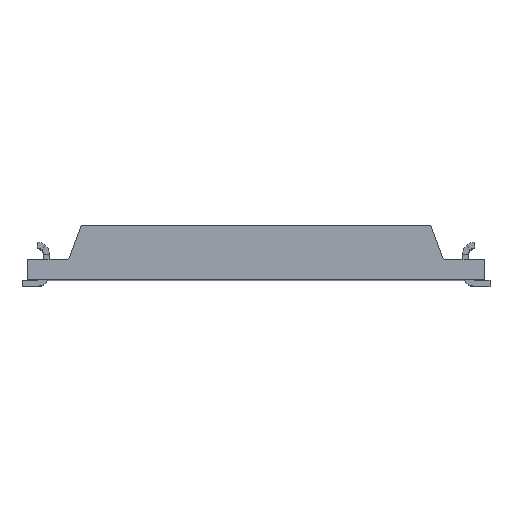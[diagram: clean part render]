
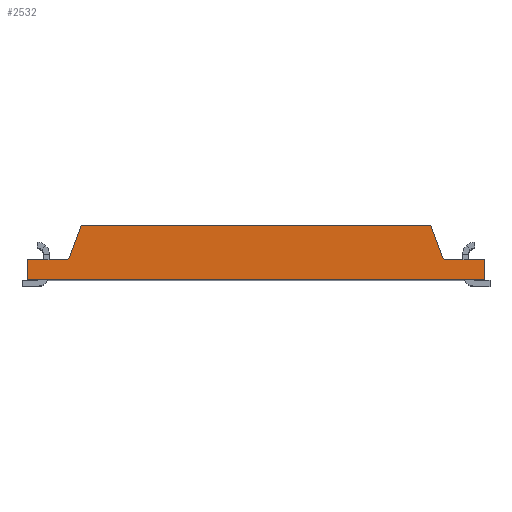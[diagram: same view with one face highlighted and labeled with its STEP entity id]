
A CAD part, top view. The second image highlights one B-rep face of the part: STEP entity #2532.
In plain terms, the highlighted planar face has unit normal (0, 0, 1).
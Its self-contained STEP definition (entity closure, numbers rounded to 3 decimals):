
#56 = EDGE_CURVE ( 'NONE', #842, #4621, #9113, .T. ) ;
#758 = EDGE_CURVE ( 'NONE', #12847, #5925, #18960, .T. ) ;
#842 = VERTEX_POINT ( 'NONE', #2823 ) ;
#993 = AXIS2_PLACEMENT_3D ( 'NONE', #15455, #5886, #17069 ) ;
#1022 = CIRCLE ( 'NONE', #15987, 0.254 ) ;
#1276 = ORIENTED_EDGE ( 'NONE', *, *, #11809, .F. ) ;
#1488 = ORIENTED_EDGE ( 'NONE', *, *, #17001, .F. ) ;
#1881 = ORIENTED_EDGE ( 'NONE', *, *, #56, .F. ) ;
#2202 = VECTOR ( 'NONE', #11343, 1000. ) ;
#2311 = CARTESIAN_POINT ( 'NONE',  ( -8.008, 1.092, 16.256 ) ) ;
#2532 = ADVANCED_FACE ( 'NONE', ( #6695 ), #12127, .T. ) ;
#2823 = CARTESIAN_POINT ( 'NONE',  ( -9.55, 0.838, 16.256 ) ) ;
#3002 = CARTESIAN_POINT ( 'NONE',  ( 9.418, 0.838, 16.256 ) ) ;
#3118 = CARTESIAN_POINT ( 'NONE',  ( -7.303, 2.286, 16.256 ) ) ;
#3531 = LINE ( 'NONE', #3002, #7239 ) ;
#3714 = EDGE_CURVE ( 'NONE', #8270, #4621, #1022, .T. ) ;
#3881 = DIRECTION ( 'NONE',  ( 1., 0., 0. ) ) ;
#4187 = LINE ( 'NONE', #9736, #2202 ) ;
#4341 = CARTESIAN_POINT ( 'NONE',  ( 9.55, 0., 16.256 ) ) ;
#4483 = ORIENTED_EDGE ( 'NONE', *, *, #8454, .F. ) ;
#4621 = VERTEX_POINT ( 'NONE', #6803 ) ;
#5500 = CARTESIAN_POINT ( 'NONE',  ( -7.769, 1.005, 16.256 ) ) ;
#5774 = VERTEX_POINT ( 'NONE', #10855 ) ;
#5886 = DIRECTION ( 'NONE',  ( 0., 0., 1. ) ) ;
#5925 = VERTEX_POINT ( 'NONE', #17162 ) ;
#6453 = ORIENTED_EDGE ( 'NONE', *, *, #14395, .F. ) ;
#6695 = FACE_OUTER_BOUND ( 'NONE', #11507, .T. ) ;
#6803 = CARTESIAN_POINT ( 'NONE',  ( -8.008, 0.838, 16.256 ) ) ;
#7225 = CARTESIAN_POINT ( 'NONE',  ( -9.55, 12.657, 16.256 ) ) ;
#7239 = VECTOR ( 'NONE', #17377, 1000. ) ;
#7291 = LINE ( 'NONE', #18323, #11057 ) ;
#7664 = CARTESIAN_POINT ( 'NONE',  ( 7.303, 2.286, 16.256 ) ) ;
#8100 = VERTEX_POINT ( 'NONE', #3118 ) ;
#8270 = VERTEX_POINT ( 'NONE', #5500 ) ;
#8338 = ORIENTED_EDGE ( 'NONE', *, *, #9151, .F. ) ;
#8454 = EDGE_CURVE ( 'NONE', #8270, #8100, #11066, .T. ) ;
#8663 = DIRECTION ( 'NONE',  ( -0.342, 0.94, 0. ) ) ;
#8873 = DIRECTION ( 'NONE',  ( 0., 0., -1. ) ) ;
#9113 = LINE ( 'NONE', #17241, #12858 ) ;
#9151 = EDGE_CURVE ( 'NONE', #12847, #17885, #3531, .T. ) ;
#9218 = DIRECTION ( 'NONE',  ( 1., 0., 0. ) ) ;
#9372 = EDGE_CURVE ( 'NONE', #5774, #18156, #14507, .T. ) ;
#9736 = CARTESIAN_POINT ( 'NONE',  ( -2.078, 2.286, 16.256 ) ) ;
#10021 = ORIENTED_EDGE ( 'NONE', *, *, #16938, .T. ) ;
#10305 = VECTOR ( 'NONE', #12913, 1000. ) ;
#10747 = DIRECTION ( 'NONE',  ( 0.342, 0.94, 0. ) ) ;
#10855 = CARTESIAN_POINT ( 'NONE',  ( -9.55, 0., 16.256 ) ) ;
#11057 = VECTOR ( 'NONE', #8663, 1000. ) ;
#11066 = LINE ( 'NONE', #12323, #19135 ) ;
#11120 = VERTEX_POINT ( 'NONE', #7664 ) ;
#11321 = CARTESIAN_POINT ( 'NONE',  ( 9.55, 12.657, 16.256 ) ) ;
#11343 = DIRECTION ( 'NONE',  ( 1., 0., 0. ) ) ;
#11486 = CARTESIAN_POINT ( 'NONE',  ( 9.55, 0.838, 16.256 ) ) ;
#11507 = EDGE_LOOP ( 'NONE', ( #17034, #1276, #8338, #14669, #10021, #6453, #4483, #17119, #1881, #1488 ) ) ;
#11809 = EDGE_CURVE ( 'NONE', #17885, #18156, #15072, .T. ) ;
#12127 = PLANE ( 'NONE',  #993 ) ;
#12323 = CARTESIAN_POINT ( 'NONE',  ( -7.488, 1.778, 16.256 ) ) ;
#12847 = VERTEX_POINT ( 'NONE', #19324 ) ;
#12858 = VECTOR ( 'NONE', #9218, 1000. ) ;
#12913 = DIRECTION ( 'NONE',  ( 0., -1., 0. ) ) ;
#13426 = DIRECTION ( 'NONE',  ( 0., 0., -1. ) ) ;
#13732 = CARTESIAN_POINT ( 'NONE',  ( -5.1, 0., 16.256 ) ) ;
#14015 = VECTOR ( 'NONE', #16935, 1000. ) ;
#14395 = EDGE_CURVE ( 'NONE', #8100, #11120, #4187, .T. ) ;
#14507 = LINE ( 'NONE', #13732, #14015 ) ;
#14669 = ORIENTED_EDGE ( 'NONE', *, *, #758, .T. ) ;
#15072 = LINE ( 'NONE', #11321, #10305 ) ;
#15455 = CARTESIAN_POINT ( 'NONE',  ( -5.1, 0., 16.256 ) ) ;
#15987 = AXIS2_PLACEMENT_3D ( 'NONE', #2311, #13426, #3881 ) ;
#16935 = DIRECTION ( 'NONE',  ( 1., 0., 0. ) ) ;
#16938 = EDGE_CURVE ( 'NONE', #5925, #11120, #7291, .T. ) ;
#17001 = EDGE_CURVE ( 'NONE', #5774, #842, #19128, .T. ) ;
#17034 = ORIENTED_EDGE ( 'NONE', *, *, #9372, .T. ) ;
#17069 = DIRECTION ( 'NONE',  ( 1., 0., 0. ) ) ;
#17119 = ORIENTED_EDGE ( 'NONE', *, *, #3714, .T. ) ;
#17162 = CARTESIAN_POINT ( 'NONE',  ( 7.769, 1.005, 16.256 ) ) ;
#17241 = CARTESIAN_POINT ( 'NONE',  ( -8.465, 0.838, 16.256 ) ) ;
#17377 = DIRECTION ( 'NONE',  ( 1., 0., 0. ) ) ;
#17854 = AXIS2_PLACEMENT_3D ( 'NONE', #18557, #8873, #20155 ) ;
#17885 = VERTEX_POINT ( 'NONE', #11486 ) ;
#18156 = VERTEX_POINT ( 'NONE', #4341 ) ;
#18323 = CARTESIAN_POINT ( 'NONE',  ( 7.769, 1.005, 16.256 ) ) ;
#18467 = DIRECTION ( 'NONE',  ( 0., 1., 0. ) ) ;
#18557 = CARTESIAN_POINT ( 'NONE',  ( 8.008, 1.092, 16.256 ) ) ;
#18623 = VECTOR ( 'NONE', #18467, 1000. ) ;
#18960 = CIRCLE ( 'NONE', #17854, 0.254 ) ;
#19128 = LINE ( 'NONE', #7225, #18623 ) ;
#19135 = VECTOR ( 'NONE', #10747, 1000. ) ;
#19324 = CARTESIAN_POINT ( 'NONE',  ( 8.008, 0.838, 16.256 ) ) ;
#20155 = DIRECTION ( 'NONE',  ( 1., 0., 0. ) ) ;
